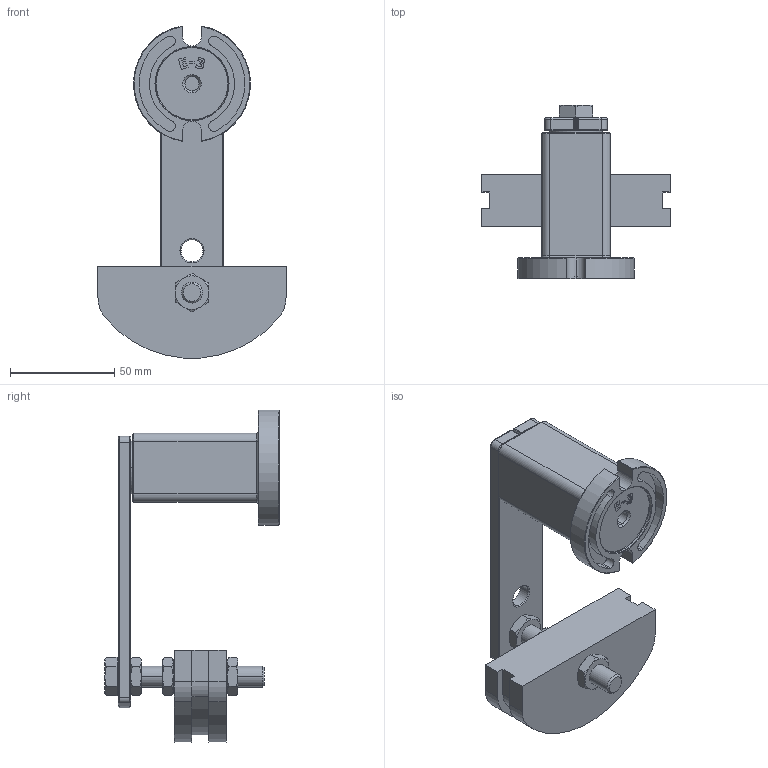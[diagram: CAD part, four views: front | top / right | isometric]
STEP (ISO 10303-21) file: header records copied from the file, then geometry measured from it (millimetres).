
FILE_DESCRIPTION (( 'STEP AP203' ), '1' );
FILE_NAME ('EGE3 - 5-8D cod. 94071502.STEP', '2017-08-25T11:36:16', ( '' ), ( '' ), 'SwSTEP 2.0', 'SolidWorks 2016', '' );
FILE_SCHEMA (( 'CONFIG_CONTROL_DESIGN' ));
Length unit declared in the file: millimetre
Products named in the file (9): E3_009_step; DS 10-15-25; EGE3 - 5-8D cod. 94071502; Leva E3_step; ISO - 4035 - M10 - N_ISO - 4035 - M10 - N; GE-P ISO 10B-2; ISO 4017 - M10 x 70-C_ISO 4017 - M10 x 70-C; GE 5-8D M10 cod. 94091502; E3 cod. 94070003
Assembly tree (10 placements, depth 3):
  EGE3 - 5-8D cod. 94071502
    E3 cod. 94070003
      Leva E3_step
      E3_009_step
    GE 5-8D M10 cod. 94091502
      GE-P ISO 10B-2
      DS 10-15-25
      ISO 4017 - M10 x 70-C_ISO 4017 - M10 x 70-C
      ISO - 4035 - M10 - N_ISO - 4035 - M10 - N  x3
Bounding box: 90 x 83.4 x 158.93 mm (x, y, z)
Volume: 166542.1 mm3; surface area: 59520.1 mm2
Topology: 8 solids, 8 shells, 334 faces, 783 edges, 472 vertices
Faces by surface type: plane 120, cylinder 90, cone 72, torus 28, bspline 20, sphere 4
Entity records: 9784 total; most frequent: CARTESIAN_POINT 2384, DIRECTION 1363, ORIENTED_EDGE 1318, EDGE_CURVE 659, AXIS2_PLACEMENT_3D 523, VERTEX_POINT 404, VECTOR 317, LINE 317
